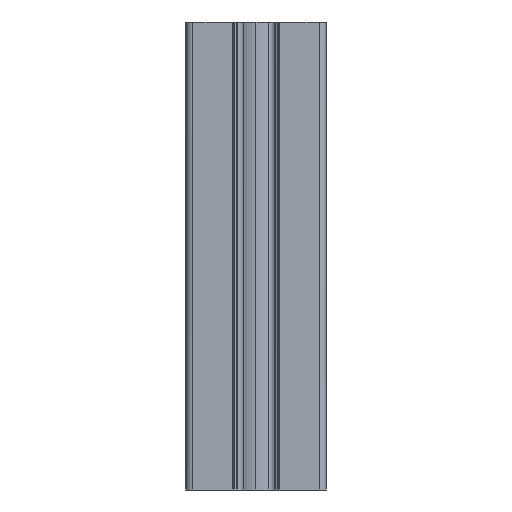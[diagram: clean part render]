
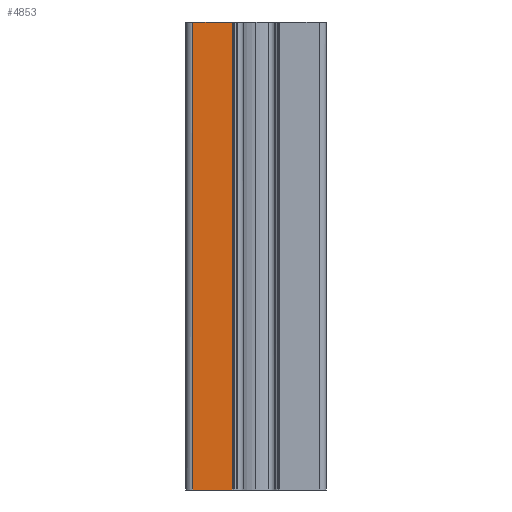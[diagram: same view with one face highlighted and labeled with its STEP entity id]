
A CAD part, left-side view. The second image highlights one B-rep face of the part: STEP entity #4853.
In plain terms, the highlighted free-form (B-spline) face has degree [1, 1] with [2, 2] control points.
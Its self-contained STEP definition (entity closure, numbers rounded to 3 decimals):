
#285 = ORIENTED_EDGE ( 'NONE', *, *, #3656, .F. ) ;
#443 = VERTEX_POINT ( 'NONE', #1246 ) ;
#861 = ORIENTED_EDGE ( 'NONE', *, *, #5383, .T. ) ;
#1048 = CARTESIAN_POINT ( 'NONE',  ( 3909.272, 1518.961, 100. ) ) ;
#1077 = CARTESIAN_POINT ( 'NONE',  ( 3909.272, 1518.961, 0. ) ) ;
#1246 = CARTESIAN_POINT ( 'NONE',  ( 3909.272, 1518.961, 100. ) ) ;
#1323 = B_SPLINE_CURVE_WITH_KNOTS ( 'NONE', 1,
 ( #2674, #3570 ),
 .UNSPECIFIED., .F., .F.,
 ( 2, 2 ),
 ( -1., 0. ),
 .UNSPECIFIED. ) ;
#1966 = B_SPLINE_CURVE_WITH_KNOTS ( 'NONE', 1,
 ( #5664, #5625 ),
 .UNSPECIFIED., .F., .F.,
 ( 2, 2 ),
 ( 0., 1. ),
 .UNSPECIFIED. ) ;
#2157 = VERTEX_POINT ( 'NONE', #1077 ) ;
#2256 = CARTESIAN_POINT ( 'NONE',  ( 3909.272, 1527.411, 0. ) ) ;
#2331 = EDGE_CURVE ( 'NONE', #443, #2157, #1323, .T. ) ;
#2380 = CARTESIAN_POINT ( 'NONE',  ( 3909.272, 1527.411, 0. ) ) ;
#2470 = ORIENTED_EDGE ( 'NONE', *, *, #2331, .F. ) ;
#2613 = CARTESIAN_POINT ( 'NONE',  ( 3909.272, 1527.411, 100. ) ) ;
#2674 = CARTESIAN_POINT ( 'NONE',  ( 3909.272, 1518.961, 100. ) ) ;
#2694 = B_SPLINE_SURFACE_WITH_KNOTS ( 'NONE', 1, 1, ( 
 ( #4690, #5251 ),
 ( #4258, #2380 ) ),
 .UNSPECIFIED., .F., .F., .F.,
 ( 2, 2 ),
 ( 2, 2 ),
 ( 0., 1. ),
 ( 0., 1. ),
 .UNSPECIFIED. ) ;
#2918 = VERTEX_POINT ( 'NONE', #2613 ) ;
#2935 = ORIENTED_EDGE ( 'NONE', *, *, #3047, .F. ) ;
#3047 = EDGE_CURVE ( 'NONE', #4780, #2918, #4011, .T. ) ;
#3570 = CARTESIAN_POINT ( 'NONE',  ( 3909.272, 1518.961, 0. ) ) ;
#3656 = EDGE_CURVE ( 'NONE', #2918, #443, #4341, .T. ) ;
#3829 = CARTESIAN_POINT ( 'NONE',  ( 3909.272, 1527.411, 100. ) ) ;
#4011 = B_SPLINE_CURVE_WITH_KNOTS ( 'NONE', 1,
 ( #4730, #4192 ),
 .UNSPECIFIED., .F., .F.,
 ( 2, 2 ),
 ( -1., 0. ),
 .UNSPECIFIED. ) ;
#4192 = CARTESIAN_POINT ( 'NONE',  ( 3909.272, 1527.411, 100. ) ) ;
#4258 = CARTESIAN_POINT ( 'NONE',  ( 3909.272, 1518.961, 0. ) ) ;
#4341 = B_SPLINE_CURVE_WITH_KNOTS ( 'NONE', 1,
 ( #3829, #1048 ),
 .UNSPECIFIED., .F., .F.,
 ( 2, 2 ),
 ( 0., 1. ),
 .UNSPECIFIED. ) ;
#4690 = CARTESIAN_POINT ( 'NONE',  ( 3909.272, 1518.961, 100. ) ) ;
#4730 = CARTESIAN_POINT ( 'NONE',  ( 3909.272, 1527.411, 0. ) ) ;
#4780 = VERTEX_POINT ( 'NONE', #2256 ) ;
#4853 = ADVANCED_FACE ( 'NONE', ( #4908 ), #2694, .F. ) ;
#4908 = FACE_OUTER_BOUND ( 'NONE', #5497, .T. ) ;
#5251 = CARTESIAN_POINT ( 'NONE',  ( 3909.272, 1527.411, 100. ) ) ;
#5383 = EDGE_CURVE ( 'NONE', #4780, #2157, #1966, .T. ) ;
#5497 = EDGE_LOOP ( 'NONE', ( #2470, #285, #2935, #861 ) ) ;
#5625 = CARTESIAN_POINT ( 'NONE',  ( 3909.272, 1518.961, 0. ) ) ;
#5664 = CARTESIAN_POINT ( 'NONE',  ( 3909.272, 1527.411, 0. ) ) ;
